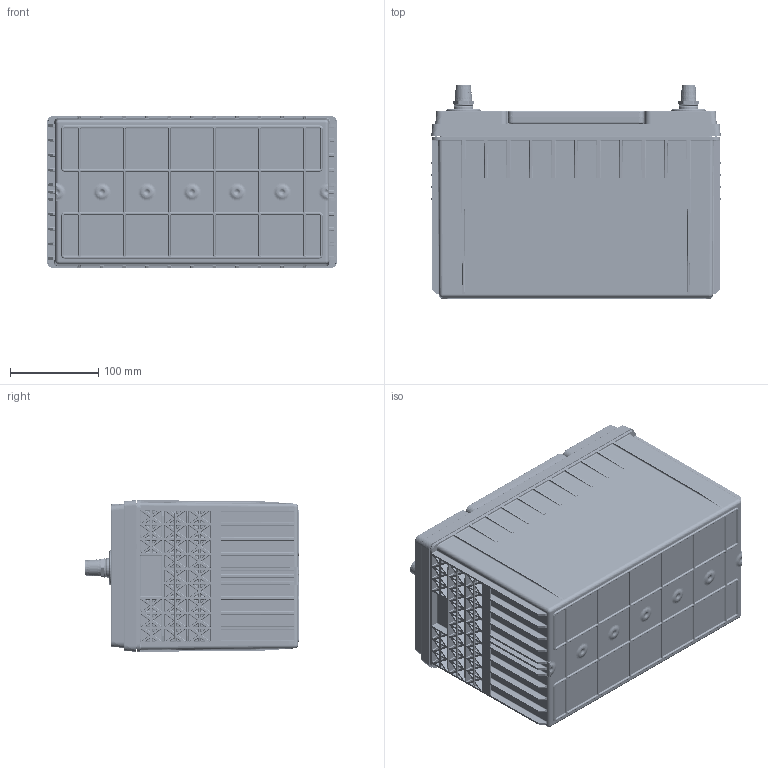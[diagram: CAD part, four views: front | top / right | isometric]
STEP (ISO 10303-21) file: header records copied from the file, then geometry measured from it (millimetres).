
FILE_DESCRIPTION (( 'STEP AP203' ), '1' );
FILE_NAME ('ODX-AGM31A.STEP', '2024-02-26T19:16:09', ( '' ), ( '' ), 'SwSTEP 2.0', 'SolidWorks 2022', '' );
FILE_SCHEMA (( 'CONFIG_CONTROL_DESIGN' ));
Products named in the file (1): ODX-AGM31A
Bounding box: 329.95 x 243.67 x 172.41 mm (x, y, z)
Volume: 1904418.2 mm3; surface area: 1282643.8 mm2
Topology: 17 solids, 17 shells, 12057 faces, 30222 edges, 16861 vertices
Faces by surface type: cylinder 4320, plane 3333, bspline 2870, torus 600, sphere 514, cone 420
Full cylindrical faces by diameter (mm): 7.62 x2, 7.937 x2, 7.938 x2, 8.001 x6, 12.192 x4, 12.7 x2, 15.875 x2, 19.05 x2, 22.225 x6, 22.622 x2, 22.86 x2, 23.813 x12, 26.238 x2, 30.956 x2
Entity records: 402906 total; most frequent: CARTESIAN_POINT 158446, ORIENTED_EDGE 56804, DIRECTION 45529, EDGE_CURVE 28402, VERTEX_POINT 16783, AXIS2_PLACEMENT_3D 16316, LINE 12897, VECTOR 12897
